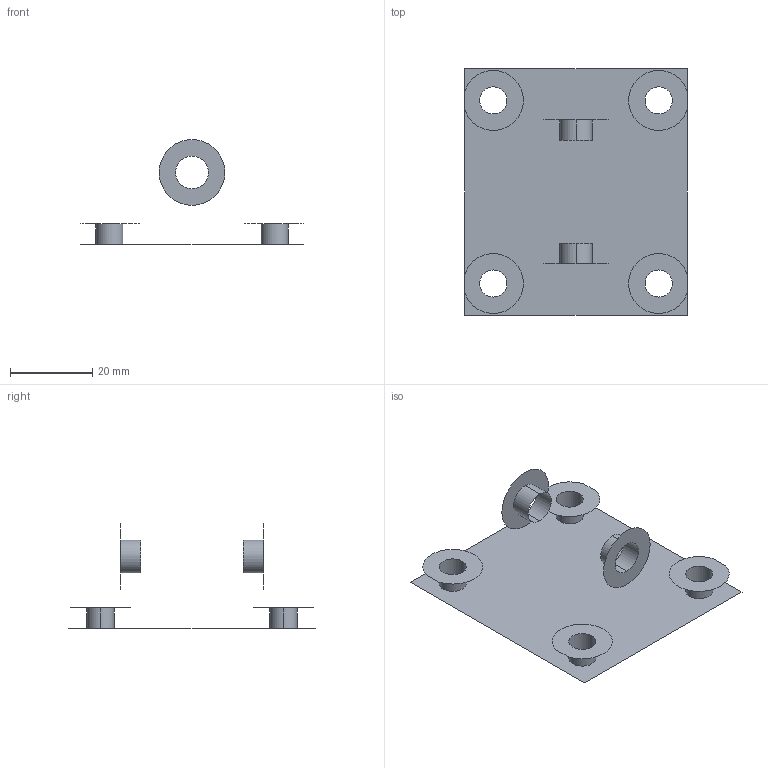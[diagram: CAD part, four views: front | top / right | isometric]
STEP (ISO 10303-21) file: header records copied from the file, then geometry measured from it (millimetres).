
FILE_DESCRIPTION (( 'STEP AP214' ), '1' );
FILE_NAME ('chape_surfaces_fonctionnelles.STEP', '2024-02-02T08:28:37', ( '' ), ( '' ), 'SwSTEP 2.0', 'SolidWorks 2022', '' );
FILE_SCHEMA (( 'AUTOMOTIVE_DESIGN' ));
Length unit declared in the file: millimetre
Products named in the file (1): chape_surfaces_fonctionnelles
Bounding box: 54.19 x 60 x 25.5 mm (x, y, z)
Surface area: 4611.4 mm2 (no closed solid volume)
Topology: 0 solids, 3 shells, 19 faces, 52 edges, 40 vertices
Faces by surface type: cylinder 12, plane 7
Entity records: 683 total; most frequent: DIRECTION 124, CARTESIAN_POINT 112, ORIENTED_EDGE 84, EDGE_CURVE 52, AXIS2_PLACEMENT_3D 52, VERTEX_POINT 40, CIRCLE 32, EDGE_LOOP 29
